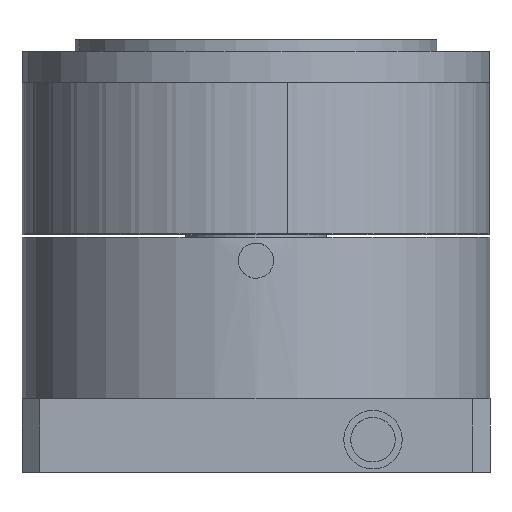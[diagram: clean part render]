
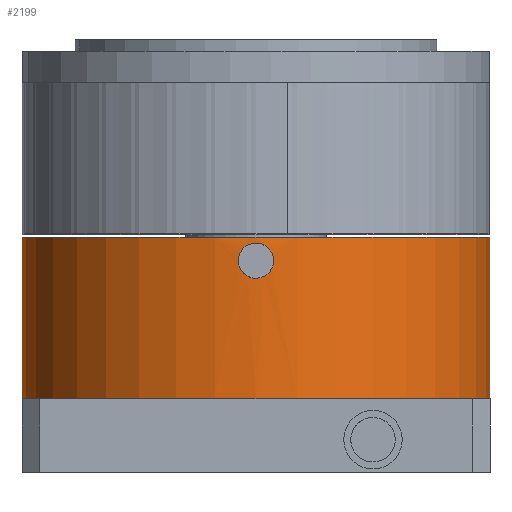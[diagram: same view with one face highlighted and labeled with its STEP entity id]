
A CAD part, front view. The second image highlights one B-rep face of the part: STEP entity #2199.
In plain terms, the highlighted cylindrical face has radius 20 mm (diameter 40 mm), a partial arc.
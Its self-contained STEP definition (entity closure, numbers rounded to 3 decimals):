
#20 = CARTESIAN_POINT ( 'NONE',  ( -2.639, -19.379, 57.016 ) ) ;
#33 = CARTESIAN_POINT ( 'NONE',  ( -2.37, -19.394, 54.902 ) ) ;
#134 = CARTESIAN_POINT ( 'NONE',  ( -1.25, -19.414, 54.61 ) ) ;
#149 = CARTESIAN_POINT ( 'NONE',  ( 0.006, -19.362, 56.489 ) ) ;
#214 = DIRECTION ( 'NONE',  ( -1., 0., 0. ) ) ;
#249 = VERTEX_POINT ( 'NONE', #309 ) ;
#250 = CARTESIAN_POINT ( 'NONE',  ( -2.2, -19.401, 57.411 ) ) ;
#264 = CARTESIAN_POINT ( 'NONE',  ( -2.749, -19.372, 55.35 ) ) ;
#265 = LINE ( 'NONE', #1182, #2994 ) ;
#309 = CARTESIAN_POINT ( 'NONE',  ( -1.446, -19.415, 54.6 ) ) ;
#326 = CARTESIAN_POINT ( 'NONE',  ( 18.554, 0.585, 58.1 ) ) ;
#343 = EDGE_CURVE ( 'NONE', #249, #1172, #2998, .T. ) ;
#362 = CARTESIAN_POINT ( 'NONE',  ( 18.554, 0.585, 44.3 ) ) ;
#371 = VERTEX_POINT ( 'NONE', #2251 ) ;
#376 = CARTESIAN_POINT ( 'NONE',  ( 0.054, -19.358, 55.903 ) ) ;
#388 = CARTESIAN_POINT ( 'NONE',  ( -1.248, -19.414, 57.59 ) ) ;
#435 = CYLINDRICAL_SURFACE ( 'NONE', #1089, 20. ) ;
#436 = EDGE_CURVE ( 'NONE', #1146, #1139, #1370, .T. ) ;
#447 = CIRCLE ( 'NONE', #2827, 20. ) ;
#471 = CARTESIAN_POINT ( 'NONE',  ( -1.446, -19.415, 57.6 ) ) ;
#484 = CARTESIAN_POINT ( 'NONE',  ( -2.947, -19.358, 55.903 ) ) ;
#567 = CARTESIAN_POINT ( 'NONE',  ( -1.446, -19.415, 57.6 ) ) ;
#574 = B_SPLINE_CURVE_WITH_KNOTS ( 'NONE', 3,
 ( #471, #1405, #2322, #250, #1168, #2102, #20, #942, #1876, #2808, #713, #1640, #2566, #484, #1419, #2335, #264, #1180, #2115, #33, #956, #1887, #2818, #726 ),
 .UNSPECIFIED., .F., .F.,
 ( 4, 2, 2, 2, 2, 2, 2, 2, 2, 2, 2, 4 ),
 ( 0.005, 0.005, 0.006, 0.006, 0.006, 0.007, 0.007, 0.008, 0.008, 0.008, 0.009, 0.009 ),
 .UNSPECIFIED. ) ;
#597 = CARTESIAN_POINT ( 'NONE',  ( -0.247, -19.379, 55.178 ) ) ;
#612 = CARTESIAN_POINT ( 'NONE',  ( -0.69, -19.401, 57.41 ) ) ;
#625 = AXIS2_PLACEMENT_3D ( 'NONE', #1816, #2754, #663 ) ;
#627 = DIRECTION ( 'NONE',  ( -1., 0., 0. ) ) ;
#663 = DIRECTION ( 'NONE',  ( -1., 0., 0. ) ) ;
#687 = EDGE_LOOP ( 'NONE', ( #1737, #851 ) ) ;
#713 = CARTESIAN_POINT ( 'NONE',  ( -2.898, -19.362, 56.49 ) ) ;
#726 = CARTESIAN_POINT ( 'NONE',  ( -1.446, -19.415, 54.6 ) ) ;
#781 = CARTESIAN_POINT ( 'NONE',  ( -21.446, 0.585, 58.1 ) ) ;
#787 = ORIENTED_EDGE ( 'NONE', *, *, #2572, .F. ) ;
#827 = CARTESIAN_POINT ( 'NONE',  ( -0.695, -19.401, 54.798 ) ) ;
#843 = CARTESIAN_POINT ( 'NONE',  ( -0.253, -19.379, 57.014 ) ) ;
#851 = ORIENTED_EDGE ( 'NONE', *, *, #1514, .F. ) ;
#857 = VECTOR ( 'NONE', #2815, 1000. ) ;
#880 = DIRECTION ( 'NONE',  ( -1., 0., 0. ) ) ;
#942 = CARTESIAN_POINT ( 'NONE',  ( -2.748, -19.372, 56.853 ) ) ;
#948 = AXIS2_PLACEMENT_3D ( 'NONE', #2038, #2968, #880 ) ;
#953 = LINE ( 'NONE', #1884, #857 ) ;
#956 = CARTESIAN_POINT ( 'NONE',  ( -2.202, -19.401, 54.79 ) ) ;
#973 = EDGE_LOOP ( 'NONE', ( #787, #2380, #2603, #2880, #2451 ) ) ;
#1054 = CARTESIAN_POINT ( 'NONE',  ( -1.058, -19.411, 54.648 ) ) ;
#1067 = CARTESIAN_POINT ( 'NONE',  ( -0.023, -19.364, 56.582 ) ) ;
#1089 = AXIS2_PLACEMENT_3D ( 'NONE', #1369, #2288, #214 ) ;
#1139 = VERTEX_POINT ( 'NONE', #781 ) ;
#1146 = VERTEX_POINT ( 'NONE', #326 ) ;
#1168 = CARTESIAN_POINT ( 'NONE',  ( -2.368, -19.394, 57.3 ) ) ;
#1172 = VERTEX_POINT ( 'NONE', #567 ) ;
#1180 = CARTESIAN_POINT ( 'NONE',  ( -2.64, -19.379, 55.187 ) ) ;
#1182 = CARTESIAN_POINT ( 'NONE',  ( 18.554, 0.585, 58.1 ) ) ;
#1288 = CARTESIAN_POINT ( 'NONE',  ( -1.446, -19.415, 54.6 ) ) ;
#1306 = CARTESIAN_POINT ( 'NONE',  ( 0.054, -19.358, 56.197 ) ) ;
#1318 = EDGE_CURVE ( 'NONE', #2039, #371, #447, .T. ) ;
#1319 = CARTESIAN_POINT ( 'NONE',  ( -1.348, -19.415, 57.6 ) ) ;
#1369 = CARTESIAN_POINT ( 'NONE',  ( -1.446, 0.585, 58.1 ) ) ;
#1370 = CIRCLE ( 'NONE', #625, 20. ) ;
#1405 = CARTESIAN_POINT ( 'NONE',  ( -1.642, -19.415, 57.6 ) ) ;
#1419 = CARTESIAN_POINT ( 'NONE',  ( -2.908, -19.361, 55.709 ) ) ;
#1485 = CIRCLE ( 'NONE', #948, 20. ) ;
#1514 = EDGE_CURVE ( 'NONE', #1172, #249, #574, .T. ) ;
#1527 = CARTESIAN_POINT ( 'NONE',  ( -0.135, -19.372, 55.345 ) ) ;
#1542 = CARTESIAN_POINT ( 'NONE',  ( -0.963, -19.409, 57.523 ) ) ;
#1590 = FACE_OUTER_BOUND ( 'NONE', #973, .T. ) ;
#1640 = CARTESIAN_POINT ( 'NONE',  ( -2.936, -19.359, 56.298 ) ) ;
#1737 = ORIENTED_EDGE ( 'NONE', *, *, #343, .F. ) ;
#1752 = CARTESIAN_POINT ( 'NONE',  ( -0.532, -19.394, 54.907 ) ) ;
#1769 = CARTESIAN_POINT ( 'NONE',  ( -0.315, -19.383, 57.09 ) ) ;
#1782 = CARTESIAN_POINT ( 'NONE',  ( -1.446, 0.585, 44.3 ) ) ;
#1816 = CARTESIAN_POINT ( 'NONE',  ( -1.446, 0.585, 58.1 ) ) ;
#1835 = EDGE_CURVE ( 'NONE', #371, #1955, #1485, .T. ) ;
#1876 = CARTESIAN_POINT ( 'NONE',  ( -2.794, -19.369, 56.766 ) ) ;
#1884 = CARTESIAN_POINT ( 'NONE',  ( -21.446, 0.585, 58.1 ) ) ;
#1887 = CARTESIAN_POINT ( 'NONE',  ( -1.842, -19.411, 54.64 ) ) ;
#1955 = VERTEX_POINT ( 'NONE', #2409 ) ;
#1991 = CARTESIAN_POINT ( 'NONE',  ( -0.963, -19.409, 54.677 ) ) ;
#2004 = CARTESIAN_POINT ( 'NONE',  ( -0.098, -19.369, 56.764 ) ) ;
#2038 = CARTESIAN_POINT ( 'NONE',  ( -1.446, 0.585, 44.3 ) ) ;
#2039 = VERTEX_POINT ( 'NONE', #362 ) ;
#2102 = CARTESIAN_POINT ( 'NONE',  ( -2.575, -19.383, 57.093 ) ) ;
#2115 = CARTESIAN_POINT ( 'NONE',  ( -2.577, -19.383, 55.109 ) ) ;
#2116 = DIRECTION ( 'NONE',  ( 0., 0., -1. ) ) ;
#2199 = ADVANCED_FACE ( 'NONE', ( #1590, #2522 ), #435, .T. ) ;
#2210 = CARTESIAN_POINT ( 'NONE',  ( -1.347, -19.415, 54.6 ) ) ;
#2223 = CARTESIAN_POINT ( 'NONE',  ( 0.044, -19.359, 56.296 ) ) ;
#2236 = CARTESIAN_POINT ( 'NONE',  ( -1.446, -19.415, 57.6 ) ) ;
#2251 = CARTESIAN_POINT ( 'NONE',  ( -1.446, -19.415, 44.3 ) ) ;
#2288 = DIRECTION ( 'NONE',  ( 0., 0., -1. ) ) ;
#2322 = CARTESIAN_POINT ( 'NONE',  ( -1.839, -19.412, 57.561 ) ) ;
#2335 = CARTESIAN_POINT ( 'NONE',  ( -2.795, -19.369, 55.436 ) ) ;
#2380 = ORIENTED_EDGE ( 'NONE', *, *, #436, .T. ) ;
#2409 = CARTESIAN_POINT ( 'NONE',  ( -21.446, 0.585, 44.3 ) ) ;
#2451 = ORIENTED_EDGE ( 'NONE', *, *, #1318, .F. ) ;
#2458 = CARTESIAN_POINT ( 'NONE',  ( 0.014, -19.361, 55.706 ) ) ;
#2471 = CARTESIAN_POINT ( 'NONE',  ( -1.056, -19.411, 57.552 ) ) ;
#2522 = FACE_BOUND ( 'NONE', #687, .T. ) ;
#2566 = CARTESIAN_POINT ( 'NONE',  ( -2.946, -19.358, 56.2 ) ) ;
#2572 = EDGE_CURVE ( 'NONE', #1146, #2039, #265, .T. ) ;
#2603 = ORIENTED_EDGE ( 'NONE', *, *, #2935, .T. ) ;
#2691 = CARTESIAN_POINT ( 'NONE',  ( -0.455, -19.39, 54.97 ) ) ;
#2705 = CARTESIAN_POINT ( 'NONE',  ( -0.525, -19.394, 57.3 ) ) ;
#2720 = DIRECTION ( 'NONE',  ( 0., 0., -1. ) ) ;
#2754 = DIRECTION ( 'NONE',  ( 0., 0., -1. ) ) ;
#2808 = CARTESIAN_POINT ( 'NONE',  ( -2.869, -19.364, 56.585 ) ) ;
#2815 = DIRECTION ( 'NONE',  ( 0., 0., -1. ) ) ;
#2818 = CARTESIAN_POINT ( 'NONE',  ( -1.645, -19.415, 54.6 ) ) ;
#2827 = AXIS2_PLACEMENT_3D ( 'NONE', #1782, #2720, #627 ) ;
#2880 = ORIENTED_EDGE ( 'NONE', *, *, #1835, .F. ) ;
#2918 = CARTESIAN_POINT ( 'NONE',  ( -0.781, -19.404, 54.752 ) ) ;
#2933 = CARTESIAN_POINT ( 'NONE',  ( -0.145, -19.372, 56.852 ) ) ;
#2935 = EDGE_CURVE ( 'NONE', #1139, #1955, #953, .T. ) ;
#2968 = DIRECTION ( 'NONE',  ( 0., 0., -1. ) ) ;
#2994 = VECTOR ( 'NONE', #2116, 1000. ) ;
#2998 = B_SPLINE_CURVE_WITH_KNOTS ( 'NONE', 3,
 ( #1288, #2210, #134, #1054, #1991, #2918, #827, #1752, #2691, #597, #1527, #2458, #376, #1306, #2223, #149, #1067, #2004, #2933, #843, #1769, #2705, #612, #1542, #2471, #388, #1319, #2236 ),
 .UNSPECIFIED., .F., .F.,
 ( 4, 2, 2, 2, 2, 2, 2, 2, 2, 2, 2, 2, 2, 4 ),
 ( 0., 0., 0.001, 0.001, 0.001, 0.002, 0.002, 0.003, 0.003, 0.003, 0.004, 0.004, 0.004, 0.005 ),
 .UNSPECIFIED. ) ;
